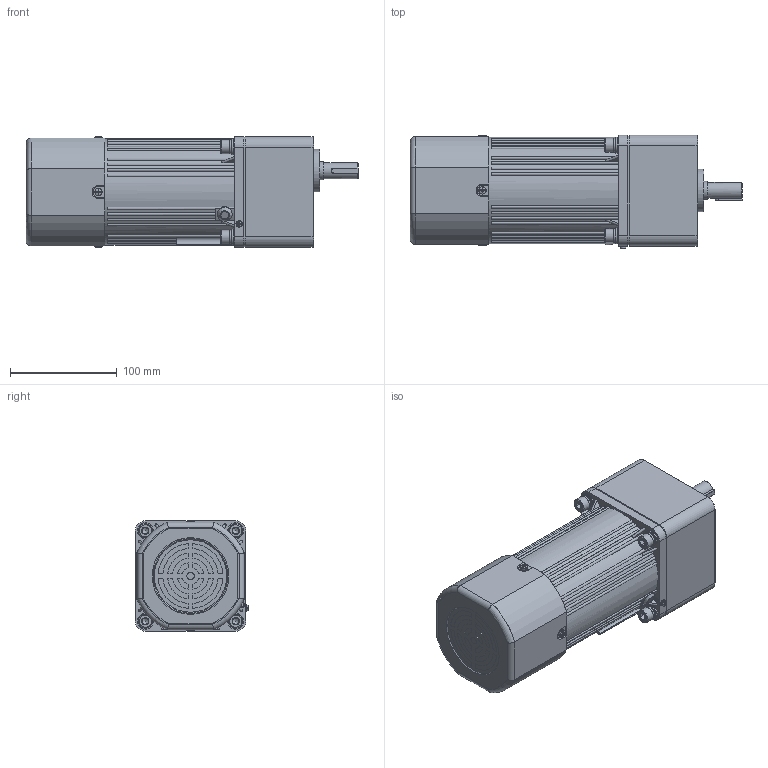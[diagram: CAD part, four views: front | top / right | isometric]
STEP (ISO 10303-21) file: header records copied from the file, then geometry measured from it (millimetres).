
FILE_DESCRIPTION(/* description */ (''),/* implementation_level */ '2;1');
FILE_NAME(/* name */ '6RK160-200CC·MRF#6GU3-750K-C·15L.stp',/* time_stamp */ '2024-05-29T20:29:14+08:00',/* author */ (''),/* organization */ (''),/* preprocessor_version */ 'ST-DEVELOPER v18.102',/* originating_system */ 'SIEMENS PLM Software NX 2027',/* authorisation */ '');
FILE_SCHEMA (('AP203_CONFIGURATION_CONTROLLED_3D_DESIGN_OF_MECHANICAL_PARTS_AND_ASSEMBLIES_MIM_LF { 1 0 10303 403 2 1 2}'));
Products named in the file (1): A0_objects
Bounding box: 311.5 x 106.83 x 104.06 mm (x, y, z)
Volume: 2685214.2 mm3; surface area: 382751.3 mm2
Topology: 24 solids, 24 shells, 1634 faces, 4311 edges, 2820 vertices
Faces by surface type: plane 680, cylinder 438, bspline 313, cone 113, torus 62, sphere 28
Full cylindrical faces by diameter (mm): 2.5 x2, 2.6 x2, 2.7 x1, 3 x1, 3.2 x2, 3.3 x4, 3.5 x4, 3.6 x4, 4 x5, 4.55 x2, 5.1 x2, 5.15 x2, 6 x2, 6.8 x20, 7 x2, 7.5 x2, 7.76 x4, 8.4 x4, 8.5 x4, 9 x9, 9.3 x1, 13 x5, 14 x9, 15 x6, 15.5 x2, 17 x1, 17.3 x1, 19 x2, 27 x1, 28 x1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
Entity records: 52946 total; most frequent: CARTESIAN_POINT 14565, ORIENTED_EDGE 7874, DIRECTION 6928, EDGE_CURVE 3937, AXIS2_PLACEMENT_3D 2743, VERTEX_POINT 2680, EDGE_LOOP 2060, ADVANCED_FACE 1634
